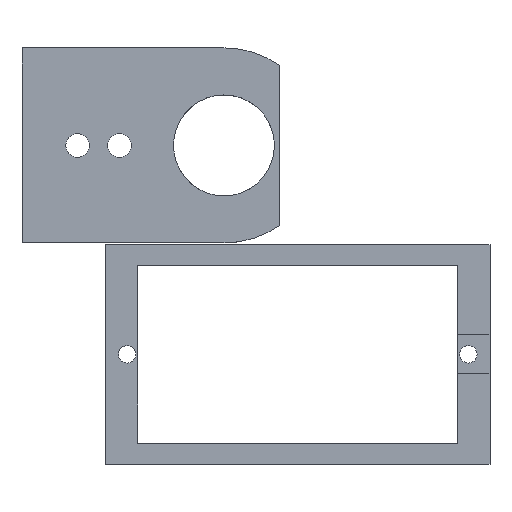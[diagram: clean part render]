
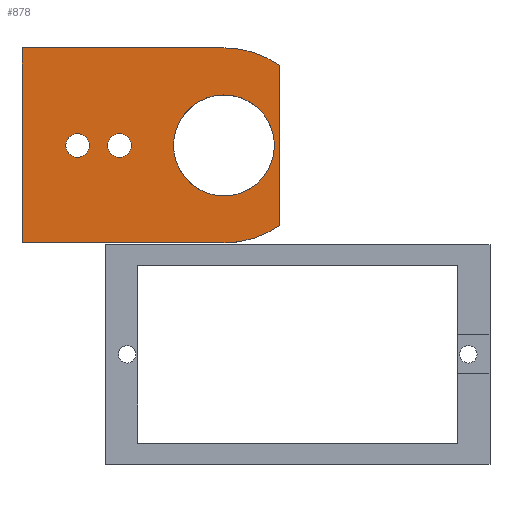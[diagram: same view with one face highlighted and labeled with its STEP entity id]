
A CAD part, top view. The second image highlights one B-rep face of the part: STEP entity #878.
In plain terms, the highlighted planar face has unit normal (0, 0, 1).
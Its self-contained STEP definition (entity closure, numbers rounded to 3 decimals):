
#598 = VERTEX_POINT('',#599);
#599 = CARTESIAN_POINT('',(-29.,44.,4.));
#607 = EDGE_CURVE('',#598,#608,#610,.T.);
#608 = VERTEX_POINT('',#609);
#609 = CARTESIAN_POINT('',(0.,44.,4.));
#610 = LINE('',#611,#612);
#611 = CARTESIAN_POINT('',(-30.,44.,4.));
#612 = VECTOR('',#613,1.);
#613 = DIRECTION('',(1.,0.,-0.));
#656 = VERTEX_POINT('',#657);
#657 = CARTESIAN_POINT('',(-29.,16.,4.));
#670 = EDGE_CURVE('',#656,#598,#671,.T.);
#671 = LINE('',#672,#673);
#672 = CARTESIAN_POINT('',(-29.,22.5,4.));
#673 = VECTOR('',#674,1.);
#674 = DIRECTION('',(-0.,1.,0.));
#858 = VERTEX_POINT('',#859);
#859 = CARTESIAN_POINT('',(8.,41.489,4.));
#867 = EDGE_CURVE('',#858,#608,#868,.T.);
#868 = CIRCLE('',#869,14.);
#869 = AXIS2_PLACEMENT_3D('',#870,#871,#872);
#870 = CARTESIAN_POINT('',(0.,30.,4.));
#871 = DIRECTION('',(0.,0.,1.));
#872 = DIRECTION('',(1.,0.,-0.));
#878 = ADVANCED_FACE('',(#879,#907,#918,#929),#940,.T.);
#879 = FACE_BOUND('',#880,.T.);
#880 = EDGE_LOOP('',(#881,#882,#883,#891,#900,#906));
#881 = ORIENTED_EDGE('',*,*,#607,.F.);
#882 = ORIENTED_EDGE('',*,*,#670,.F.);
#883 = ORIENTED_EDGE('',*,*,#884,.T.);
#884 = EDGE_CURVE('',#656,#885,#887,.T.);
#885 = VERTEX_POINT('',#886);
#886 = CARTESIAN_POINT('',(0.,16.,4.));
#887 = LINE('',#888,#889);
#888 = CARTESIAN_POINT('',(-30.,16.,4.));
#889 = VECTOR('',#890,1.);
#890 = DIRECTION('',(1.,0.,-0.));
#891 = ORIENTED_EDGE('',*,*,#892,.T.);
#892 = EDGE_CURVE('',#885,#893,#895,.T.);
#893 = VERTEX_POINT('',#894);
#894 = CARTESIAN_POINT('',(8.,18.511,4.));
#895 = CIRCLE('',#896,14.);
#896 = AXIS2_PLACEMENT_3D('',#897,#898,#899);
#897 = CARTESIAN_POINT('',(0.,30.,4.));
#898 = DIRECTION('',(0.,0.,1.));
#899 = DIRECTION('',(1.,0.,-0.));
#900 = ORIENTED_EDGE('',*,*,#901,.T.);
#901 = EDGE_CURVE('',#893,#858,#902,.T.);
#902 = LINE('',#903,#904);
#903 = CARTESIAN_POINT('',(8.,22.5,4.));
#904 = VECTOR('',#905,1.);
#905 = DIRECTION('',(-0.,1.,0.));
#906 = ORIENTED_EDGE('',*,*,#867,.T.);
#907 = FACE_BOUND('',#908,.T.);
#908 = EDGE_LOOP('',(#909));
#909 = ORIENTED_EDGE('',*,*,#910,.F.);
#910 = EDGE_CURVE('',#911,#911,#913,.T.);
#911 = VERTEX_POINT('',#912);
#912 = CARTESIAN_POINT('',(-19.3,30.,4.));
#913 = CIRCLE('',#914,1.7);
#914 = AXIS2_PLACEMENT_3D('',#915,#916,#917);
#915 = CARTESIAN_POINT('',(-21.,30.,4.));
#916 = DIRECTION('',(0.,0.,1.));
#917 = DIRECTION('',(1.,0.,-0.));
#918 = FACE_BOUND('',#919,.T.);
#919 = EDGE_LOOP('',(#920));
#920 = ORIENTED_EDGE('',*,*,#921,.F.);
#921 = EDGE_CURVE('',#922,#922,#924,.T.);
#922 = VERTEX_POINT('',#923);
#923 = CARTESIAN_POINT('',(-13.3,30.,4.));
#924 = CIRCLE('',#925,1.7);
#925 = AXIS2_PLACEMENT_3D('',#926,#927,#928);
#926 = CARTESIAN_POINT('',(-15.,30.,4.));
#927 = DIRECTION('',(0.,0.,1.));
#928 = DIRECTION('',(1.,0.,-0.));
#929 = FACE_BOUND('',#930,.T.);
#930 = EDGE_LOOP('',(#931));
#931 = ORIENTED_EDGE('',*,*,#932,.F.);
#932 = EDGE_CURVE('',#933,#933,#935,.T.);
#933 = VERTEX_POINT('',#934);
#934 = CARTESIAN_POINT('',(7.25,30.,4.));
#935 = CIRCLE('',#936,7.25);
#936 = AXIS2_PLACEMENT_3D('',#937,#938,#939);
#937 = CARTESIAN_POINT('',(0.,30.,4.));
#938 = DIRECTION('',(0.,0.,1.));
#939 = DIRECTION('',(1.,0.,-0.));
#940 = PLANE('',#941);
#941 = AXIS2_PLACEMENT_3D('',#942,#943,#944);
#942 = CARTESIAN_POINT('',(-10.354,30.,4.));
#943 = DIRECTION('',(0.,0.,1.));
#944 = DIRECTION('',(1.,0.,-0.));
